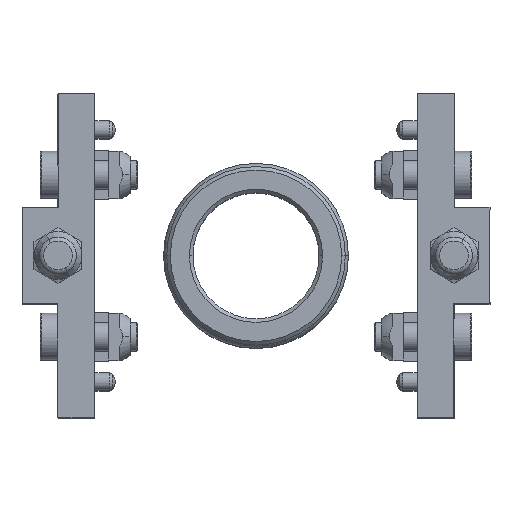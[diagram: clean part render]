
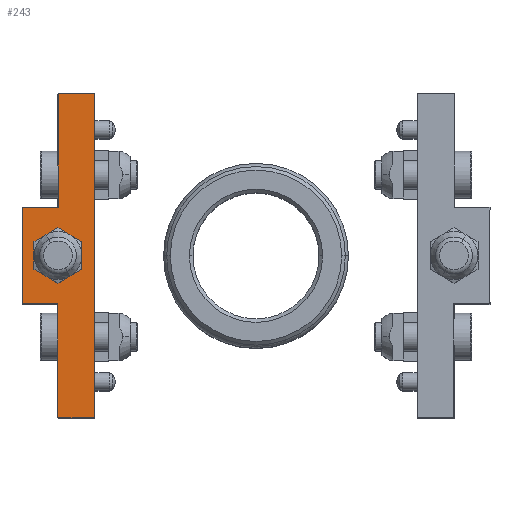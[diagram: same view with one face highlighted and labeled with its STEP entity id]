
A CAD part, top view. The second image highlights one B-rep face of the part: STEP entity #243.
In plain terms, the highlighted planar face has unit normal (0, 0, 1) as drawn and (0, 0, -1) by its records, which use the part's own axes.
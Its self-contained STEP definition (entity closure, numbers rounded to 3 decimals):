
#243 = ADVANCED_FACE ( 'NONE', ( #2346, #2348 ), #5207, .T. ) ;
#1124 = CARTESIAN_POINT ( 'NONE',  ( 0., 10., -15. ) ) ;
#1134 = DIRECTION ( 'NONE',  ( 0., 0., 1. ) ) ;
#1190 = CARTESIAN_POINT ( 'NONE',  ( -4.25, 10., -15. ) ) ;
#1192 = CARTESIAN_POINT ( 'NONE',  ( 45., 20., -15. ) ) ;
#1245 = DIRECTION ( 'NONE',  ( 1., 0., 0. ) ) ;
#1660 = CIRCLE ( 'NONE', #4173, 4.25 ) ;
#2165 = VECTOR ( 'NONE', #5177, 1000. ) ;
#2167 = VECTOR ( 'NONE', #5178, 1000. ) ;
#2168 = CIRCLE ( 'NONE', #3556, 4.25 ) ;
#2170 = VECTOR ( 'NONE', #5180, 1000. ) ;
#2171 = LINE ( 'NONE', #5182, #2165 ) ;
#2172 = VECTOR ( 'NONE', #5183, 1000. ) ;
#2173 = LINE ( 'NONE', #5185, #2167 ) ;
#2175 = VECTOR ( 'NONE', #5186, 1000. ) ;
#2176 = LINE ( 'NONE', #5187, #2170 ) ;
#2177 = VECTOR ( 'NONE', #5188, 1000. ) ;
#2178 = LINE ( 'NONE', #5189, #2172 ) ;
#2179 = VECTOR ( 'NONE', #5191, 1000. ) ;
#2180 = LINE ( 'NONE', #5192, #2175 ) ;
#2181 = VECTOR ( 'NONE', #5230, 1000. ) ;
#2183 = LINE ( 'NONE', #5198, #2177 ) ;
#2184 = LINE ( 'NONE', #5224, #2181 ) ;
#2201 = LINE ( 'NONE', #5196, #2179 ) ;
#2346 = FACE_OUTER_BOUND ( 'NONE', #2974, .T. ) ;
#2348 = FACE_BOUND ( 'NONE', #2983, .T. ) ;
#2380 = VERTEX_POINT ( 'NONE', #4549 ) ;
#2434 = ORIENTED_EDGE ( 'NONE', *, *, #3777, .F. ) ;
#2442 = ORIENTED_EDGE ( 'NONE', *, *, #3779, .F. ) ;
#2633 = VERTEX_POINT ( 'NONE', #5430 ) ;
#2692 = VERTEX_POINT ( 'NONE', #5411 ) ;
#2859 = ORIENTED_EDGE ( 'NONE', *, *, #4114, .T. ) ;
#2974 = EDGE_LOOP ( 'NONE', ( #3219, #3281, #3159, #3210, #3208, #2434, #3240, #2442 ) ) ;
#2983 = EDGE_LOOP ( 'NONE', ( #2859, #3091 ) ) ;
#3091 = ORIENTED_EDGE ( 'NONE', *, *, #3780, .T. ) ;
#3159 = ORIENTED_EDGE ( 'NONE', *, *, #3774, .F. ) ;
#3208 = ORIENTED_EDGE ( 'NONE', *, *, #3776, .F. ) ;
#3210 = ORIENTED_EDGE ( 'NONE', *, *, #3775, .F. ) ;
#3219 = ORIENTED_EDGE ( 'NONE', *, *, #3772, .F. ) ;
#3240 = ORIENTED_EDGE ( 'NONE', *, *, #3778, .F. ) ;
#3281 = ORIENTED_EDGE ( 'NONE', *, *, #3773, .F. ) ;
#3367 = VERTEX_POINT ( 'NONE', #5400 ) ;
#3373 = VERTEX_POINT ( 'NONE', #5388 ) ;
#3377 = VERTEX_POINT ( 'NONE', #5383 ) ;
#3414 = VERTEX_POINT ( 'NONE', #5334 ) ;
#3463 = VERTEX_POINT ( 'NONE', #5289 ) ;
#3556 = AXIS2_PLACEMENT_3D ( 'NONE', #5170, #5169, #5166 ) ;
#3620 = AXIS2_PLACEMENT_3D ( 'NONE', #5210, #5221, #5205 ) ;
#3772 = EDGE_CURVE ( 'NONE', #3414, #3367, #2184, .T. ) ;
#3773 = EDGE_CURVE ( 'NONE', #3463, #3414, #2201, .T. ) ;
#3774 = EDGE_CURVE ( 'NONE', #3377, #3463, #2183, .T. ) ;
#3775 = EDGE_CURVE ( 'NONE', #5647, #3377, #2180, .T. ) ;
#3776 = EDGE_CURVE ( 'NONE', #2380, #5647, #2178, .T. ) ;
#3777 = EDGE_CURVE ( 'NONE', #2633, #2380, #2176, .T. ) ;
#3778 = EDGE_CURVE ( 'NONE', #2692, #2633, #2173, .T. ) ;
#3779 = EDGE_CURVE ( 'NONE', #3367, #2692, #2171, .T. ) ;
#3780 = EDGE_CURVE ( 'NONE', #3373, #5612, #2168, .T. ) ;
#4114 = EDGE_CURVE ( 'NONE', #5612, #3373, #1660, .T. ) ;
#4173 = AXIS2_PLACEMENT_3D ( 'NONE', #1124, #1134, #1245 ) ;
#4549 = CARTESIAN_POINT ( 'NONE',  ( 45., 10., -15. ) ) ;
#5166 = DIRECTION ( 'NONE',  ( 1., 0., 0. ) ) ;
#5169 = DIRECTION ( 'NONE',  ( 0., 0., 1. ) ) ;
#5170 = CARTESIAN_POINT ( 'NONE',  ( 0., 10., -15. ) ) ;
#5177 = DIRECTION ( 'NONE',  ( 1., 0., 0. ) ) ;
#5178 = DIRECTION ( 'NONE',  ( 0., 1., 0. ) ) ;
#5180 = DIRECTION ( 'NONE',  ( 1., 0., 0. ) ) ;
#5182 = CARTESIAN_POINT ( 'NONE',  ( -13.4, 0., -15. ) ) ;
#5183 = DIRECTION ( 'NONE',  ( 0., 1., 0. ) ) ;
#5185 = CARTESIAN_POINT ( 'NONE',  ( 13.4, 0., -15. ) ) ;
#5186 = DIRECTION ( 'NONE',  ( -1., 0., 0. ) ) ;
#5187 = CARTESIAN_POINT ( 'NONE',  ( 13.4, 10., -15. ) ) ;
#5188 = DIRECTION ( 'NONE',  ( 0., -1., 0. ) ) ;
#5189 = CARTESIAN_POINT ( 'NONE',  ( 45., 10., -15. ) ) ;
#5191 = DIRECTION ( 'NONE',  ( 1., 0., 0. ) ) ;
#5192 = CARTESIAN_POINT ( 'NONE',  ( -45., 20., -15. ) ) ;
#5196 = CARTESIAN_POINT ( 'NONE',  ( -13.4, 10., -15. ) ) ;
#5198 = CARTESIAN_POINT ( 'NONE',  ( -45., 10., -15. ) ) ;
#5205 = DIRECTION ( 'NONE',  ( -1., 0., 0. ) ) ;
#5207 = PLANE ( 'NONE',  #3620 ) ;
#5210 = CARTESIAN_POINT ( 'NONE',  ( -13.4, 20., -15. ) ) ;
#5221 = DIRECTION ( 'NONE',  ( 0., 0., -1. ) ) ;
#5224 = CARTESIAN_POINT ( 'NONE',  ( -13.4, 0., -15. ) ) ;
#5230 = DIRECTION ( 'NONE',  ( 0., -1., 0. ) ) ;
#5289 = CARTESIAN_POINT ( 'NONE',  ( -45., 10., -15. ) ) ;
#5334 = CARTESIAN_POINT ( 'NONE',  ( -13.4, 10., -15. ) ) ;
#5383 = CARTESIAN_POINT ( 'NONE',  ( -45., 20., -15. ) ) ;
#5388 = CARTESIAN_POINT ( 'NONE',  ( 4.25, 10., -15. ) ) ;
#5400 = CARTESIAN_POINT ( 'NONE',  ( -13.4, 0., -15. ) ) ;
#5411 = CARTESIAN_POINT ( 'NONE',  ( 13.4, 0., -15. ) ) ;
#5430 = CARTESIAN_POINT ( 'NONE',  ( 13.4, 10., -15. ) ) ;
#5612 = VERTEX_POINT ( 'NONE', #1190 ) ;
#5647 = VERTEX_POINT ( 'NONE', #1192 ) ;
